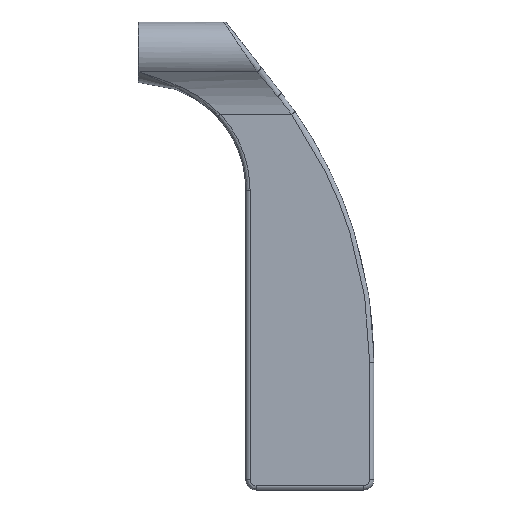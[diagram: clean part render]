
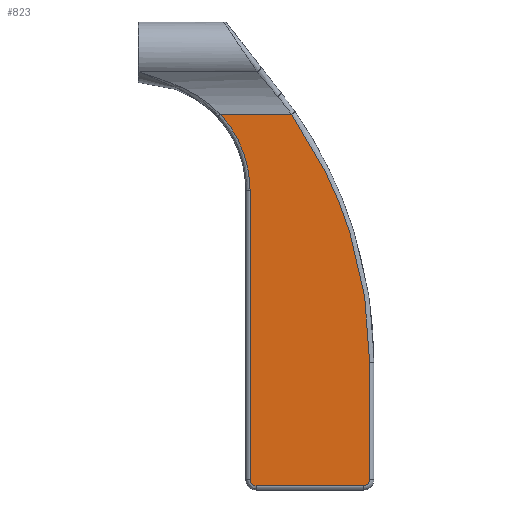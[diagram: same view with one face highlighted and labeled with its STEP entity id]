
A CAD part, left-side view. The second image highlights one B-rep face of the part: STEP entity #823.
In plain terms, the highlighted planar face has unit normal (-1, 0, -0.009).
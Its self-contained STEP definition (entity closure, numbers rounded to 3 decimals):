
#46=ELLIPSE('',#908,1.75,1.75);
#48=ELLIPSE('',#913,1.75,1.75);
#50=ELLIPSE('',#918,128.755,128.75);
#99=B_SPLINE_CURVE_WITH_KNOTS('',3,(#1726,#1727,#1728,#1729,#1730),
 .UNSPECIFIED.,.F.,.F.,(4,1,4),(-2.485,-1.065,0.),
 .UNSPECIFIED.);
#110=PLANE('',#951);
#163=FACE_OUTER_BOUND('',#221,.T.);
#221=EDGE_LOOP('',(#753,#754,#755,#756,#757,#758,#759,#760));
#225=LINE('',#1338,#253);
#233=LINE('',#1735,#261);
#235=LINE('',#1771,#263);
#237=LINE('',#1807,#265);
#253=VECTOR('',#1007,10.);
#261=VECTOR('',#1083,10.);
#263=VECTOR('',#1095,10.);
#265=VECTOR('',#1107,10.);
#348=VERTEX_POINT('',#1330);
#349=VERTEX_POINT('',#1337);
#375=VERTEX_POINT('',#1724);
#377=VERTEX_POINT('',#1733);
#379=VERTEX_POINT('',#1763);
#381=VERTEX_POINT('',#1769);
#383=VERTEX_POINT('',#1799);
#385=VERTEX_POINT('',#1805);
#429=EDGE_CURVE('',#349,#348,#225,.T.);
#470=EDGE_CURVE('',#375,#348,#99,.T.);
#472=EDGE_CURVE('',#377,#375,#233,.T.);
#475=EDGE_CURVE('',#379,#377,#46,.T.);
#478=EDGE_CURVE('',#381,#379,#235,.T.);
#481=EDGE_CURVE('',#383,#381,#48,.T.);
#484=EDGE_CURVE('',#385,#383,#237,.T.);
#487=EDGE_CURVE('',#349,#385,#50,.T.);
#753=ORIENTED_EDGE('',*,*,#487,.F.);
#754=ORIENTED_EDGE('',*,*,#429,.T.);
#755=ORIENTED_EDGE('',*,*,#470,.F.);
#756=ORIENTED_EDGE('',*,*,#472,.F.);
#757=ORIENTED_EDGE('',*,*,#475,.F.);
#758=ORIENTED_EDGE('',*,*,#478,.F.);
#759=ORIENTED_EDGE('',*,*,#481,.F.);
#760=ORIENTED_EDGE('',*,*,#484,.F.);
#823=ADVANCED_FACE('',(#163),#110,.F.);
#908=AXIS2_PLACEMENT_3D('',#1765,#1087,#1088);
#913=AXIS2_PLACEMENT_3D('',#1801,#1099,#1100);
#918=AXIS2_PLACEMENT_3D('',#1836,#1111,#1112);
#951=AXIS2_PLACEMENT_3D('',#2201,#1189,#1190);
#1007=DIRECTION('',(0.,1.,0.));
#1083=DIRECTION('',(-0.009,0.,1.));
#1087=DIRECTION('center_axis',(1.,0.,0.009));
#1088=DIRECTION('ref_axis',(0.009,0.,-1.));
#1095=DIRECTION('',(0.,1.,0.));
#1099=DIRECTION('center_axis',(1.,0.,0.009));
#1100=DIRECTION('ref_axis',(0.009,0.,-1.));
#1107=DIRECTION('',(0.009,0.,-1.));
#1111=DIRECTION('center_axis',(1.,0.,0.009));
#1112=DIRECTION('ref_axis',(-0.009,0.,
1.));
#1189=DIRECTION('center_axis',(1.,0.,0.009));
#1190=DIRECTION('ref_axis',(-0.009,0.,1.));
#1330=CARTESIAN_POINT('',(-2.274,-9.402,-18.397));
#1337=CARTESIAN_POINT('',(-2.274,-30.574,-18.397));
#1338=CARTESIAN_POINT('',(-2.274,0.,-18.397));
#1724=CARTESIAN_POINT('',(-2.077,-18.25,-41.003));
#1726=CARTESIAN_POINT('Ctrl Pts',(-2.077,-18.25,-41.003));
#1727=CARTESIAN_POINT('Ctrl Pts',(-2.118,-18.25,-36.27));
#1728=CARTESIAN_POINT('Ctrl Pts',(-2.19,-16.455,-27.992));
#1729=CARTESIAN_POINT('Ctrl Pts',(-2.251,-11.811,-21.005));
#1730=CARTESIAN_POINT('Ctrl Pts',(-2.274,-9.402,-18.397));
#1733=CARTESIAN_POINT('',(-1.326,-18.25,-127.011));
#1735=CARTESIAN_POINT('',(-1.3,-18.25,-130.006));
#1763=CARTESIAN_POINT('',(-1.311,-20.,-128.761));
#1765=CARTESIAN_POINT('Origin',(-1.326,-20.,-127.011));
#1769=CARTESIAN_POINT('',(-1.311,-52.,-128.761));
#1771=CARTESIAN_POINT('',(-1.311,-27.5,-128.761));
#1799=CARTESIAN_POINT('',(-1.326,-53.75,-127.011));
#1801=CARTESIAN_POINT('Origin',(-1.326,-52.,-127.011));
#1805=CARTESIAN_POINT('',(-1.631,-53.75,-92.091));
#1807=CARTESIAN_POINT('',(-1.661,-53.75,-88.668));
#1836=CARTESIAN_POINT('Origin',(-1.631,75.,-92.091));
#2201=CARTESIAN_POINT('Origin',(-1.3,0.,-130.));
